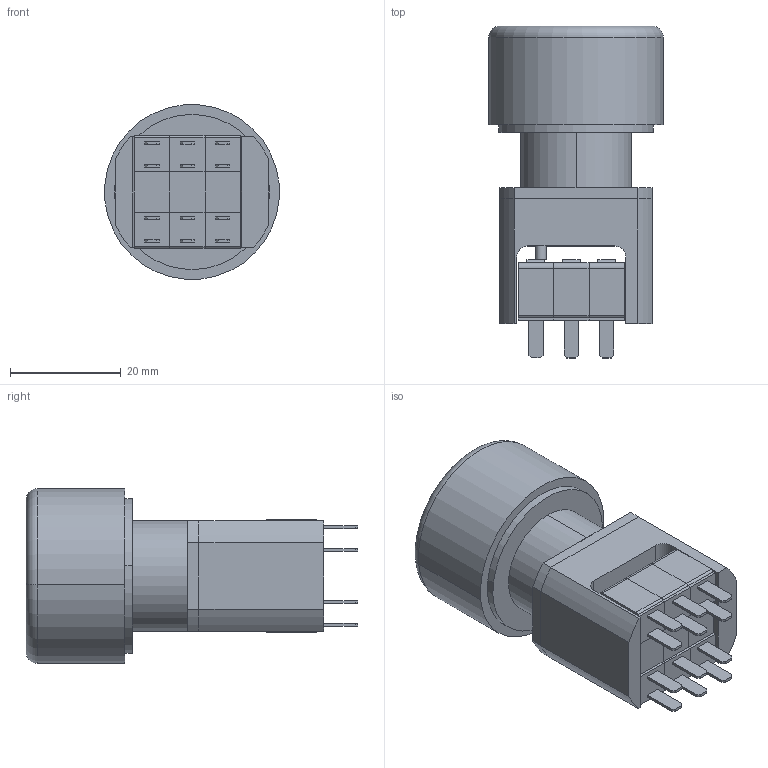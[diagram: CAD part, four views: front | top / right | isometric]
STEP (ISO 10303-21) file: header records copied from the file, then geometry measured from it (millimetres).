
FILE_DESCRIPTION (( 'STEP AP214' ), '1' );
FILE_NAME ('016P3PCG33F.STEP', '2025-06-05T06:24:09', ( '' ), ( '' ), 'SwSTEP 2.0', 'SolidWorks 2013', '' );
FILE_SCHEMA (( 'AUTOMOTIVE_DESIGN' ));
Length unit declared in the file: millimetre
Products named in the file (8): Cap; (160002); (160016); 016P3PCG33F; (160001); 016GP28; (167005); (160015)
Assembly tree (10 placements, depth 2):
  016P3PCG33F
    (160015)
    (160002)
    (167005)  x3
    (160001)
    (160016)  x2
    016GP28
    Cap
Bounding box: 31.51 x 59.9 x 31.51 mm (x, y, z)
Volume: 23539.2 mm3; surface area: 19677.4 mm2
Topology: 14 solids, 14 shells, 301 faces, 719 edges, 466 vertices
Faces by surface type: plane 178, cylinder 93, bspline 14, cone 8, torus 8
Entity records: 7469 total; most frequent: CARTESIAN_POINT 1187, DIRECTION 904, ORIENTED_EDGE 786, EDGE_CURVE 393, AXIS2_PLACEMENT_3D 339, VERTEX_POINT 250, VECTOR 226, LINE 226
